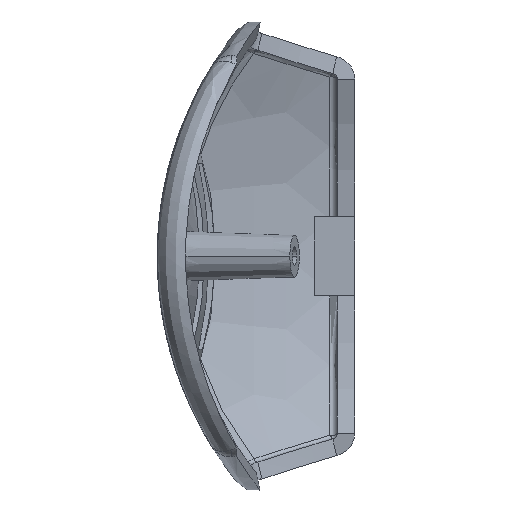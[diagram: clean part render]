
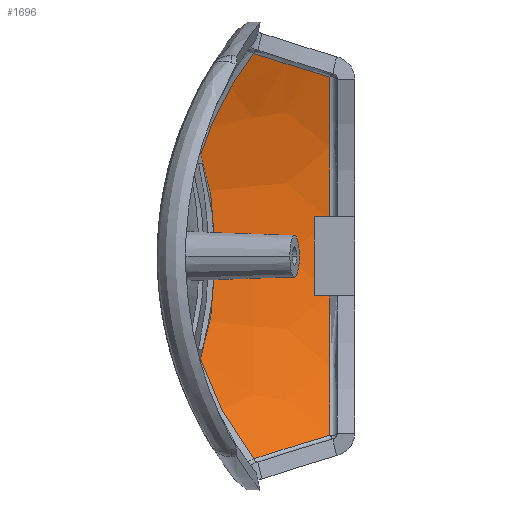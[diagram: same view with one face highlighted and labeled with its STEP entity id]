
A CAD part, left-side view. The second image highlights one B-rep face of the part: STEP entity #1696.
In plain terms, the highlighted toroidal (fillet/blend) face has major radius 7.691 mm and minor radius 33.5 mm.
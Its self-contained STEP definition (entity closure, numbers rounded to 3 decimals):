
#15 = CARTESIAN_POINT ( 'NONE',  ( 24.19, 8.7, -17.449 ) ) ;
#91 = EDGE_CURVE ( 'NONE', #973, #1744, #4196, .T. ) ;
#97 = CARTESIAN_POINT ( 'NONE',  ( 24.176, 13.409, -8.486 ) ) ;
#118 = CARTESIAN_POINT ( 'NONE',  ( 24.194, 12.918, 9.933 ) ) ;
#124 = CARTESIAN_POINT ( 'NONE',  ( 28.444, 2.156, -15.422 ) ) ;
#321 = ORIENTED_EDGE ( 'NONE', *, *, #2985, .F. ) ;
#361 = AXIS2_PLACEMENT_3D ( 'NONE', #3064, #3042, #3749 ) ;
#364 = CARTESIAN_POINT ( 'NONE',  ( 28.444, 2.156, -15.422 ) ) ;
#382 = ORIENTED_EDGE ( 'NONE', *, *, #1735, .F. ) ;
#409 = CARTESIAN_POINT ( 'NONE',  ( 24.205, 9.184, -16.825 ) ) ;
#425 = ORIENTED_EDGE ( 'NONE', *, *, #3459, .F. ) ;
#487 = CARTESIAN_POINT ( 'NONE',  ( 24.161, 13.741, -7.351 ) ) ;
#504 = CARTESIAN_POINT ( 'NONE',  ( 24.217, 11.997, 12.106 ) ) ;
#557 = ORIENTED_EDGE ( 'NONE', *, *, #91, .F. ) ;
#855 = CARTESIAN_POINT ( 'NONE',  ( 28.444, 2.156, 15.422 ) ) ;
#869 = CARTESIAN_POINT ( 'NONE',  ( 24.137, 14.195, -5.44 ) ) ;
#874 = CARTESIAN_POINT ( 'NONE',  ( 25.886, 6.69, 16.803 ) ) ;
#885 = CARTESIAN_POINT ( 'NONE',  ( 24.228, 10.527, 14.887 ) ) ;
#915 = CARTESIAN_POINT ( 'NONE',  ( 24.19, 8.7, -17.449 ) ) ;
#973 = VERTEX_POINT ( 'NONE', #4677 ) ;
#983 = VERTEX_POINT ( 'NONE', #364 ) ;
#1189 = CARTESIAN_POINT ( 'NONE',  ( 27.308, 4.514, 16.12 ) ) ;
#1258 = CARTESIAN_POINT ( 'NONE',  ( 24.105, 14.715, -1.581 ) ) ;
#1283 = CARTESIAN_POINT ( 'NONE',  ( 24.19, 8.7, 17.449 ) ) ;
#1291 = B_SPLINE_CURVE_WITH_KNOTS ( 'NONE', 3,
 ( #124, #2384, #3082, #915 ),
 .UNSPECIFIED., .F., .F.,
 ( 4, 4 ),
 ( 0., 0.008 ),
 .UNSPECIFIED. ) ;
#1312 = CARTESIAN_POINT ( 'NONE',  ( 28.444, 2.156, 15.422 ) ) ;
#1316 = AXIS2_PLACEMENT_3D ( 'NONE', #3996, #1926, #4357 ) ;
#1617 = CARTESIAN_POINT ( 'NONE',  ( 24.225, 10.503, -14.864 ) ) ;
#1625 = CARTESIAN_POINT ( 'NONE',  ( 24.19, 8.7, 17.449 ) ) ;
#1637 = CARTESIAN_POINT ( 'NONE',  ( 24.107, 14.684, 1.552 ) ) ;
#1696 = ADVANCED_FACE ( 'NONE', ( #2548 ), #2438, .F. ) ;
#1735 = EDGE_CURVE ( 'NONE', #983, #2889, #1291, .T. ) ;
#1744 = VERTEX_POINT ( 'NONE', #1312 ) ;
#1885 = B_SPLINE_CURVE_WITH_KNOTS ( 'NONE', 3,
 ( #15, #409, #3712, #1617, #4053, #1985, #4420, #2336, #97, #2682, #487, #3034, #869, #3382, #1258, #3725, #1637, #4074, #2000, #4437, #2357, #118, #2696, #504, #3054, #885, #3399, #1283 ),
 .UNSPECIFIED., .F., .F.,
 ( 4, 2, 2, 2, 2, 2, 2, 2, 2, 2, 2, 2, 2, 4 ),
 ( 0., 0.002, 0.005, 0.009, 0.011, 0.012, 0.014, 0.019, 0.021, 0.024, 0.028, 0.031, 0.033, 0.038 ),
 .UNSPECIFIED. ) ;
#1926 = DIRECTION ( 'NONE',  ( 0., 1., 0. ) ) ;
#1985 = CARTESIAN_POINT ( 'NONE',  ( 24.22, 12.018, -12.135 ) ) ;
#2000 = CARTESIAN_POINT ( 'NONE',  ( 24.122, 14.455, 3.903 ) ) ;
#2336 = CARTESIAN_POINT ( 'NONE',  ( 24.18, 13.288, -8.86 ) ) ;
#2357 = CARTESIAN_POINT ( 'NONE',  ( 24.166, 13.681, 7.72 ) ) ;
#2384 = CARTESIAN_POINT ( 'NONE',  ( 27.308, 4.514, -16.12 ) ) ;
#2438 = TOROIDAL_SURFACE ( 'NONE', #361, 7.691, 33.5 ) ;
#2516 = CIRCLE ( 'NONE', #1316, 39.524 ) ;
#2548 = FACE_OUTER_BOUND ( 'NONE', #3183, .T. ) ;
#2682 = CARTESIAN_POINT ( 'NONE',  ( 24.166, 13.635, -7.732 ) ) ;
#2696 = CARTESIAN_POINT ( 'NONE',  ( 24.203, 12.632, 10.663 ) ) ;
#2889 = VERTEX_POINT ( 'NONE', #3942 ) ;
#2985 = EDGE_CURVE ( 'NONE', #2889, #973, #1885, .T. ) ;
#3034 = CARTESIAN_POINT ( 'NONE',  ( 24.146, 14.034, -6.207 ) ) ;
#3042 = DIRECTION ( 'NONE',  ( 0., -1., 0. ) ) ;
#3054 = CARTESIAN_POINT ( 'NONE',  ( 24.222, 11.65, 12.815 ) ) ;
#3064 = CARTESIAN_POINT ( 'NONE',  ( -7.947, -8.279, 0. ) ) ;
#3082 = CARTESIAN_POINT ( 'NONE',  ( 25.886, 6.69, -16.803 ) ) ;
#3183 = EDGE_LOOP ( 'NONE', ( #321, #382, #425, #557 ) ) ;
#3382 = CARTESIAN_POINT ( 'NONE',  ( 24.114, 14.584, -3.133 ) ) ;
#3399 = CARTESIAN_POINT ( 'NONE',  ( 24.22, 9.668, 16.201 ) ) ;
#3459 = EDGE_CURVE ( 'NONE', #1744, #983, #2516, .T. ) ;
#3712 = CARTESIAN_POINT ( 'NONE',  ( 24.215, 9.643, -16.181 ) ) ;
#3725 = CARTESIAN_POINT ( 'NONE',  ( 24.105, 14.717, 0.765 ) ) ;
#3749 = DIRECTION ( 'NONE',  ( 0., 0., -1. ) ) ;
#3942 = CARTESIAN_POINT ( 'NONE',  ( 24.19, 8.7, -17.449 ) ) ;
#3996 = CARTESIAN_POINT ( 'NONE',  ( -7.947, 2.156, 0. ) ) ;
#4053 = CARTESIAN_POINT ( 'NONE',  ( 24.226, 10.903, -14.192 ) ) ;
#4074 = CARTESIAN_POINT ( 'NONE',  ( 24.115, 14.553, 3.125 ) ) ;
#4196 = B_SPLINE_CURVE_WITH_KNOTS ( 'NONE', 3,
 ( #1625, #874, #1189, #855 ),
 .UNSPECIFIED., .F., .F.,
 ( 4, 4 ),
 ( 0., 0.008 ),
 .UNSPECIFIED. ) ;
#4357 = DIRECTION ( 'NONE',  ( 0., 0., -1. ) ) ;
#4420 = CARTESIAN_POINT ( 'NONE',  ( 24.204, 12.648, -10.71 ) ) ;
#4437 = CARTESIAN_POINT ( 'NONE',  ( 24.145, 14.065, 6.212 ) ) ;
#4677 = CARTESIAN_POINT ( 'NONE',  ( 24.19, 8.7, 17.449 ) ) ;
